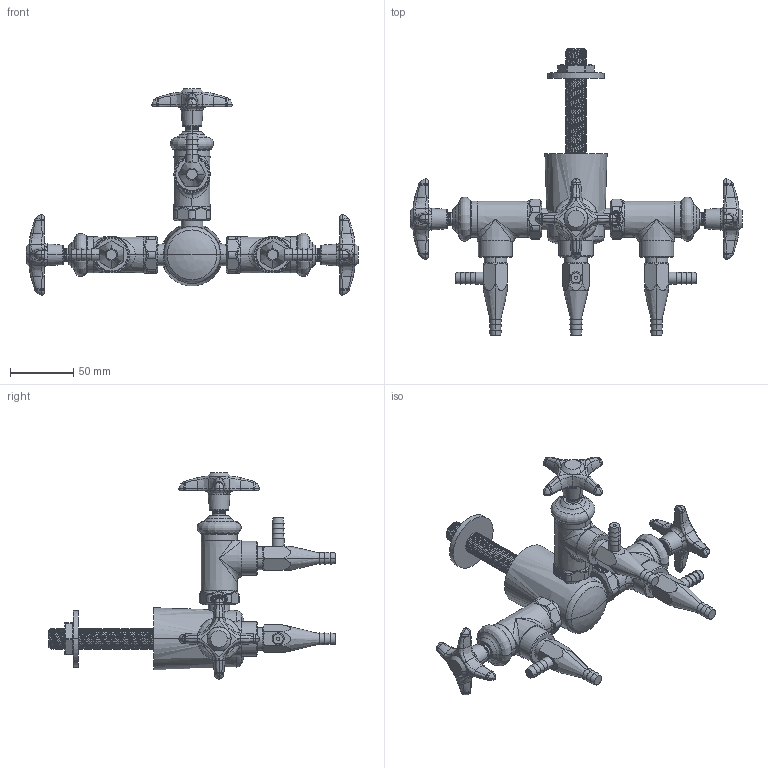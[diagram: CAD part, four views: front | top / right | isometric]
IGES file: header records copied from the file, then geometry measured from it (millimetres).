
Start section:  PTC IGES file: LWV2-C33-30.igs
Global section: file name: LWV2-C33-30.igs; native system: Creo Parametric by PTC Inc.; preprocessor: 2014500; author: usch_engrender; organization: Unknown; date: 20151124.122158; units: inch
Bounding box: 261.52 x 225.55 x 162.47 mm (x, y, z)
Volume: 396567.8 mm3; surface area: 80163.5 mm2
Topology: 1 solids, 11 shells, 1513 faces, 3533 edges, 2099 vertices
Faces by surface type: bspline 838, revolution 675
